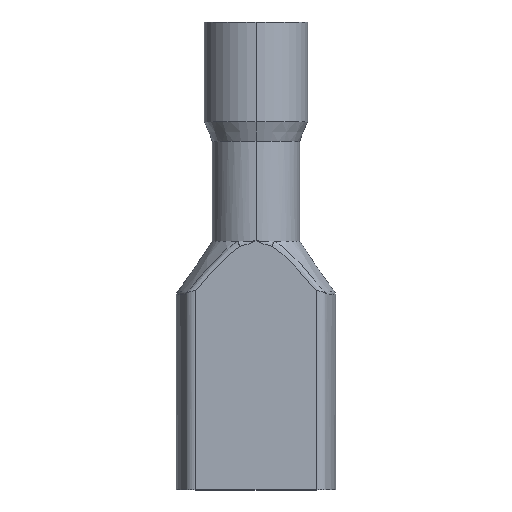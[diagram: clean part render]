
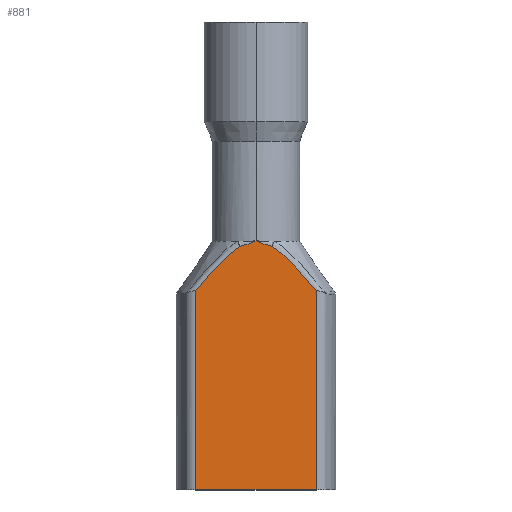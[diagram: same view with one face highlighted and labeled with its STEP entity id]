
A CAD part, top view. The second image highlights one B-rep face of the part: STEP entity #881.
In plain terms, the highlighted planar face has unit normal (0, 0, 1).
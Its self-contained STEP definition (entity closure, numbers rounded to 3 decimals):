
#42 = CARTESIAN_POINT ( 'NONE',  ( -2.291, 10.872, 2.2 ) ) ;
#92 = ORIENTED_EDGE ( 'NONE', *, *, #411, .T. ) ;
#117 = CARTESIAN_POINT ( 'NONE',  ( 3.017, 10.004, 2.2 ) ) ;
#157 = CARTESIAN_POINT ( 'NONE',  ( 0.266, 12.394, 2.2 ) ) ;
#281 = CARTESIAN_POINT ( 'NONE',  ( -0.814, 12.231, 2.2 ) ) ;
#312 = B_SPLINE_CURVE_WITH_KNOTS ( 'NONE', 3,
 ( #3813, #1167, #4560, #2302, #4929, #2669, #369, #3054, #774, #3432, #1182, #3831, #1567, #4200 ),
 .UNSPECIFIED., .F., .F.,
 ( 4, 1, 1, 1, 1, 1, 1, 2, 2, 4 ),
 ( 0., 0.25, 0.375, 0.437, 0.469, 0.484, 0.492, 0.496, 0.5, 1. ),
 .UNSPECIFIED. ) ;
#369 = CARTESIAN_POINT ( 'NONE',  ( 2.022, 11.159, 2.2 ) ) ;
#409 = CARTESIAN_POINT ( 'NONE',  ( -0.979, 12.127, 2.2 ) ) ;
#411 = EDGE_CURVE ( 'NONE', #893, #4136, #1458, .T. ) ;
#443 = CARTESIAN_POINT ( 'NONE',  ( -3.017, 10.004, 2.2 ) ) ;
#541 = CARTESIAN_POINT ( 'NONE',  ( 0.814, 12.231, 2.2 ) ) ;
#617 = CARTESIAN_POINT ( 'NONE',  ( -3.017, 0., 2.2 ) ) ;
#774 = CARTESIAN_POINT ( 'NONE',  ( 1.999, 11.184, 2.2 ) ) ;
#837 = CARTESIAN_POINT ( 'NONE',  ( -1.25, 11.92, 2.2 ) ) ;
#881 = ADVANCED_FACE ( 'NONE', ( #1398 ), #4635, .F. ) ;
#893 = VERTEX_POINT ( 'NONE', #2799 ) ;
#969 = VERTEX_POINT ( 'NONE', #617 ) ;
#1036 = ORIENTED_EDGE ( 'NONE', *, *, #3884, .T. ) ;
#1167 = CARTESIAN_POINT ( 'NONE',  ( 2.825, 10.239, 2.2 ) ) ;
#1182 = CARTESIAN_POINT ( 'NONE',  ( 1.993, 11.191, 2.2 ) ) ;
#1238 = CARTESIAN_POINT ( 'NONE',  ( -1.795, 11.398, 2.2 ) ) ;
#1378 = CARTESIAN_POINT ( 'NONE',  ( -3.017, 11.285, 2.2 ) ) ;
#1398 = FACE_OUTER_BOUND ( 'NONE', #4473, .T. ) ;
#1458 = LINE ( 'NONE', #4500, #3331 ) ;
#1567 = CARTESIAN_POINT ( 'NONE',  ( 1.145, 12.024, 2.2 ) ) ;
#1572 = LINE ( 'NONE', #1378, #2557 ) ;
#1616 = CARTESIAN_POINT ( 'NONE',  ( -1.94, 11.247, 2.2 ) ) ;
#1689 = CARTESIAN_POINT ( 'NONE',  ( 0., 12.5, 2.2 ) ) ;
#1932 = ORIENTED_EDGE ( 'NONE', *, *, #2422, .T. ) ;
#1993 = CARTESIAN_POINT ( 'NONE',  ( -1.975, 11.209, 2.2 ) ) ;
#2224 = CARTESIAN_POINT ( 'NONE',  ( 0., 12.5, 2.2 ) ) ;
#2240 = B_SPLINE_CURVE_WITH_KNOTS ( 'NONE', 3,
 ( #541, #4732, #157, #2854 ),
 .UNSPECIFIED., .F., .F.,
 ( 4, 4 ),
 ( 0., 0.001 ),
 .UNSPECIFIED. ) ;
#2274 = CARTESIAN_POINT ( 'NONE',  ( -3.017, 10.004, 2.2 ) ) ;
#2302 = CARTESIAN_POINT ( 'NONE',  ( 2.262, 10.896, 2.2 ) ) ;
#2370 = CARTESIAN_POINT ( 'NONE',  ( -1.987, 11.197, 2.2 ) ) ;
#2377 = VECTOR ( 'NONE', #2412, 1000. ) ;
#2412 = DIRECTION ( 'NONE',  ( 1., 0., 0. ) ) ;
#2422 = EDGE_CURVE ( 'NONE', #3960, #969, #1572, .T. ) ;
#2557 = VECTOR ( 'NONE', #3625, 1000. ) ;
#2592 = CARTESIAN_POINT ( 'NONE',  ( -0.533, 12.286, 2.2 ) ) ;
#2669 = CARTESIAN_POINT ( 'NONE',  ( 2.056, 11.123, 2.2 ) ) ;
#2751 = CARTESIAN_POINT ( 'NONE',  ( -2.634, 10.475, 2.2 ) ) ;
#2799 = CARTESIAN_POINT ( 'NONE',  ( 3.017, 0., 2.2 ) ) ;
#2813 = CARTESIAN_POINT ( 'NONE',  ( 3.464, 0., 2.2 ) ) ;
#2854 = CARTESIAN_POINT ( 'NONE',  ( 0., 12.5, 2.2 ) ) ;
#3018 = EDGE_CURVE ( 'NONE', #3685, #3960, #3404, .T. ) ;
#3048 = ORIENTED_EDGE ( 'NONE', *, *, #4221, .T. ) ;
#3054 = CARTESIAN_POINT ( 'NONE',  ( 2.006, 11.177, 2.2 ) ) ;
#3213 = AXIS2_PLACEMENT_3D ( 'NONE', #3224, #4602, #4666 ) ;
#3224 = CARTESIAN_POINT ( 'NONE',  ( 2.291, 11.285, 2.2 ) ) ;
#3331 = VECTOR ( 'NONE', #4886, 1000. ) ;
#3397 = EDGE_CURVE ( 'NONE', #969, #893, #3496, .T. ) ;
#3404 = B_SPLINE_CURVE_WITH_KNOTS ( 'NONE', 3,
 ( #4610, #409, #837, #3487, #1238, #3876, #1616, #4247, #1993, #4627, #2370, #42, #2751, #443 ),
 .UNSPECIFIED., .F., .F.,
 ( 4, 1, 1, 1, 1, 1, 1, 2, 2, 4 ),
 ( 0., 0.25, 0.375, 0.438, 0.469, 0.484, 0.492, 0.496, 0.5, 1. ),
 .UNSPECIFIED. ) ;
#3432 = CARTESIAN_POINT ( 'NONE',  ( 1.994, 11.19, 2.2 ) ) ;
#3487 = CARTESIAN_POINT ( 'NONE',  ( -1.607, 11.587, 2.2 ) ) ;
#3496 = LINE ( 'NONE', #2813, #2377 ) ;
#3625 = DIRECTION ( 'NONE',  ( 0., -1., 0. ) ) ;
#3647 = CARTESIAN_POINT ( 'NONE',  ( -0.814, 12.231, 2.2 ) ) ;
#3685 = VERTEX_POINT ( 'NONE', #3647 ) ;
#3729 = B_SPLINE_CURVE_WITH_KNOTS ( 'NONE', 3,
 ( #2224, #4097, #2592, #281 ),
 .UNSPECIFIED., .F., .F.,
 ( 4, 4 ),
 ( 0., 0.001 ),
 .UNSPECIFIED. ) ;
#3813 = CARTESIAN_POINT ( 'NONE',  ( 3.017, 10.004, 2.2 ) ) ;
#3831 = CARTESIAN_POINT ( 'NONE',  ( 1.537, 11.678, 2.2 ) ) ;
#3876 = CARTESIAN_POINT ( 'NONE',  ( -1.891, 11.298, 2.2 ) ) ;
#3884 = EDGE_CURVE ( 'NONE', #4380, #3685, #3729, .T. ) ;
#3960 = VERTEX_POINT ( 'NONE', #2274 ) ;
#4056 = ORIENTED_EDGE ( 'NONE', *, *, #4751, .T. ) ;
#4097 = CARTESIAN_POINT ( 'NONE',  ( -0.266, 12.394, 2.2 ) ) ;
#4136 = VERTEX_POINT ( 'NONE', #117 ) ;
#4200 = CARTESIAN_POINT ( 'NONE',  ( 0.814, 12.231, 2.2 ) ) ;
#4221 = EDGE_CURVE ( 'NONE', #4844, #4380, #2240, .T. ) ;
#4247 = CARTESIAN_POINT ( 'NONE',  ( -1.965, 11.221, 2.2 ) ) ;
#4275 = CARTESIAN_POINT ( 'NONE',  ( 0.814, 12.231, 2.2 ) ) ;
#4380 = VERTEX_POINT ( 'NONE', #1689 ) ;
#4473 = EDGE_LOOP ( 'NONE', ( #92, #4056, #3048, #1036, #4930, #1932, #4815 ) ) ;
#4500 = CARTESIAN_POINT ( 'NONE',  ( 3.017, 11.285, 2.2 ) ) ;
#4560 = CARTESIAN_POINT ( 'NONE',  ( 2.553, 10.565, 2.2 ) ) ;
#4602 = DIRECTION ( 'NONE',  ( 0., 0., -1. ) ) ;
#4610 = CARTESIAN_POINT ( 'NONE',  ( -0.814, 12.231, 2.2 ) ) ;
#4627 = CARTESIAN_POINT ( 'NONE',  ( -1.982, 11.202, 2.2 ) ) ;
#4635 = PLANE ( 'NONE',  #3213 ) ;
#4666 = DIRECTION ( 'NONE',  ( -1., 0., 0. ) ) ;
#4732 = CARTESIAN_POINT ( 'NONE',  ( 0.533, 12.286, 2.2 ) ) ;
#4751 = EDGE_CURVE ( 'NONE', #4136, #4844, #312, .T. ) ;
#4815 = ORIENTED_EDGE ( 'NONE', *, *, #3397, .T. ) ;
#4844 = VERTEX_POINT ( 'NONE', #4275 ) ;
#4886 = DIRECTION ( 'NONE',  ( 0., 1., 0. ) ) ;
#4929 = CARTESIAN_POINT ( 'NONE',  ( 2.124, 11.049, 2.2 ) ) ;
#4930 = ORIENTED_EDGE ( 'NONE', *, *, #3018, .T. ) ;
